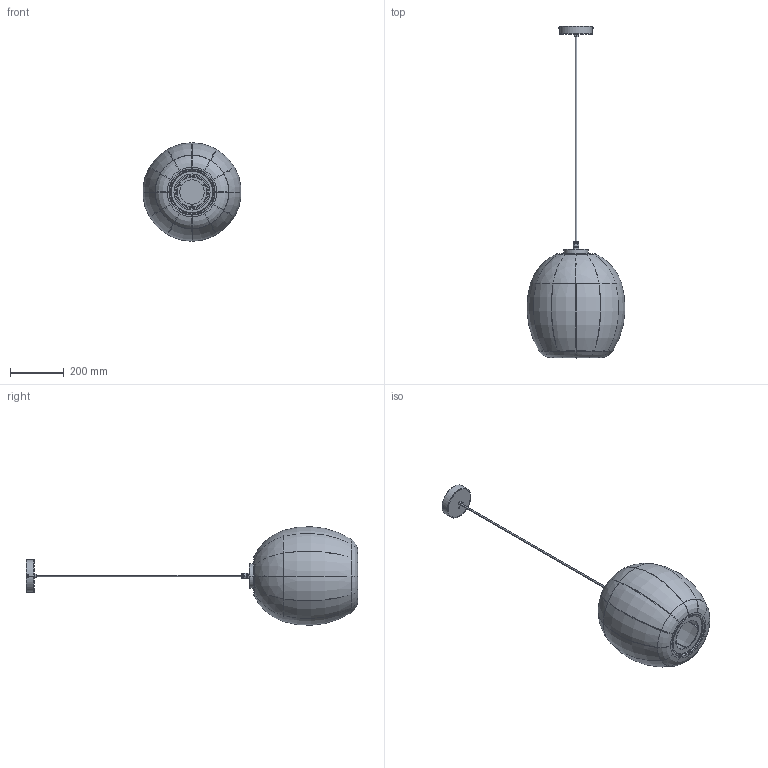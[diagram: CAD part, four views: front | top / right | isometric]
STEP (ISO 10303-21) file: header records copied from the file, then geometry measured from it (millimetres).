
FILE_DESCRIPTION (( 'STEP AP203' ), '1' );
FILE_NAME ('CA.S136.16.STEP', '2026-03-09T13:40:14', ( '' ), ( '' ), 'SwSTEP 2.0', 'SolidWorks 2013', '' );
FILE_SCHEMA (( 'CONFIG_CONTROL_DESIGN' ));
Length unit declared in the file: millimetre
Products named in the file (21): TC170_Difusor Ø110 3T Ø3.8; AR071_FLORÓ ø120x30 2xM4 sistema USA; AR115.01_Caixa amb escaló Ø111x46; CG-M16-1_PREMSAESTOPA M16; AR115.02_Disc Ø108 3T M3; AR115_Caixa conjunt LED + disc Ø108 soldat; GI416_Disc embellidor Ø156_Ø122; Teixit pantalla Ø360x385; GI420_disc embellidor Ø110_Ø90 3T Ø3.8; EK44; AG019_M4x8; GI429_Disco Ø136_Ø92; TECH144.16_Conjunt LED outdoor_2023; Ø70_CL386_XI_BB 11,4W a 500mA (EA); KO014_CABLE TRANSP.800mm; DIN7380 M3x10; CA.S136.16; famella premsaestopa M16x1.5; Conjunt NOU mòdul LED; AMS350_armaçó Ø360x380 12 radis (entrada plana); XV001_Suport alumini Ø110x20_230724
Assembly tree (23 placements, depth 5):
  CA.S136.16
    AMS350_armaçó Ø360x380 12 radis (entrada plana)
    GI416_Disc embellidor Ø156_Ø122
    TECH144.16_Conjunt LED outdoor_2023
      KO014_CABLE TRANSP.800mm
      AR071_FLORÓ ø120x30 2xM4 sistema USA
      EK44
      AG019_M4x8  x2
      Conjunt NOU mòdul LED
        AR115_Caixa conjunt LED + disc Ø108 soldat
          AR115.01_Caixa amb escaló Ø111x46
          AR115.02_Disc Ø108 3T M3
        XV001_Suport alumini Ø110x20_230724
        Ø70_CL386_XI_BB 11,4W a 500mA (EA)
        TC170_Difusor Ø110 3T Ø3.8
        CG-M16-1_PREMSAESTOPA M16
        GI420_disc embellidor Ø110_Ø90 3T Ø3.8
        famella premsaestopa M16x1.5
        DIN7380 M3x10  x3
    Teixit pantalla Ø360x385
    GI429_Disco Ø136_Ø92
Bounding box: 364.15 x 1233.69 x 366.15 mm (x, y, z)
Volume: 580772.4 mm3; surface area: 1278768 mm2
Topology: 23 solids, 23 shells, 707 faces, 1753 edges, 1104 vertices
Faces by surface type: plane 310, cylinder 198, torus 146, cone 45, bspline 4, sphere 4
Entity records: 23287 total; most frequent: CARTESIAN_POINT 5075, DIRECTION 3510, ORIENTED_EDGE 3210, EDGE_CURVE 1605, AXIS2_PLACEMENT_3D 1377, VERTEX_POINT 1014, VECTOR 756, LINE 756
